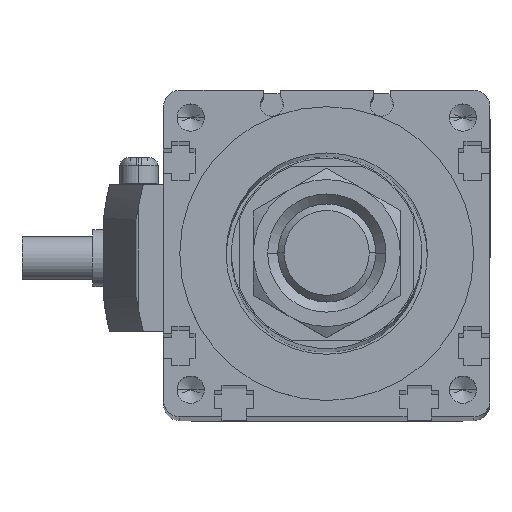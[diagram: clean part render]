
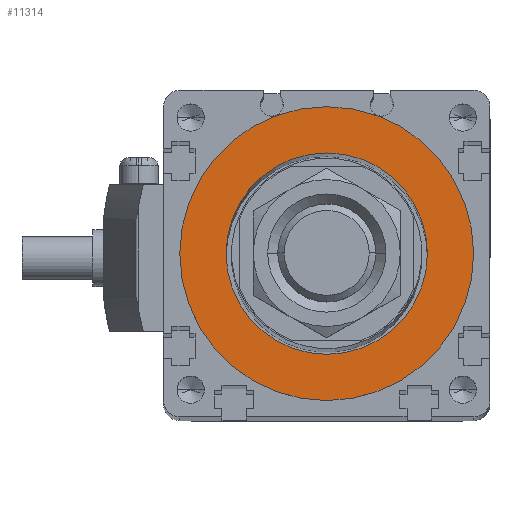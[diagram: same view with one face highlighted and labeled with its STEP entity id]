
A CAD part, top view. The second image highlights one B-rep face of the part: STEP entity #11314.
In plain terms, the highlighted planar face has unit normal (0, 0, 1).
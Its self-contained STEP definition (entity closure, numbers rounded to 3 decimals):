
#116 = DIRECTION ( 'NONE',  ( 1., 0., 0. ) ) ;
#117 = DIRECTION ( 'NONE',  ( 0., 0., 1. ) ) ;
#118 = CARTESIAN_POINT ( 'NONE',  ( -30., 30., 391.1 ) ) ;
#119 = AXIS2_PLACEMENT_3D ( 'NONE', #118, #117, #116 ) ;
#126 = FACE_BOUND ( 'NONE', #10800, .T. ) ;
#131 = PLANE ( 'NONE',  #119 ) ;
#136 = FACE_OUTER_BOUND ( 'NONE', #10810, .T. ) ;
#152 = CIRCLE ( 'NONE', #17199, 27. ) ;
#3004 = AXIS2_PLACEMENT_3D ( 'NONE', #3493, #3748, #3865 ) ;
#3493 = CARTESIAN_POINT ( 'NONE',  ( 0., 0., 391.1 ) ) ;
#3748 = DIRECTION ( 'NONE',  ( 0., 0., -1. ) ) ;
#3865 = DIRECTION ( 'NONE',  ( 1., 0., 0. ) ) ;
#4191 = CIRCLE ( 'NONE', #3004, 18.5 ) ;
#4589 = CARTESIAN_POINT ( 'NONE',  ( 27., 0., 391.1 ) ) ;
#4654 = CARTESIAN_POINT ( 'NONE',  ( -27., 0., 391.1 ) ) ;
#10059 = VERTEX_POINT ( 'NONE', #4654 ) ;
#10068 = VERTEX_POINT ( 'NONE', #4589 ) ;
#10252 = EDGE_CURVE ( 'NONE', #11006, #10269, #4191, .T. ) ;
#10269 = VERTEX_POINT ( 'NONE', #16546 ) ;
#10402 = EDGE_CURVE ( 'NONE', #10068, #10059, #16508, .T. ) ;
#10641 = EDGE_CURVE ( 'NONE', #10269, #11006, #16805, .T. ) ;
#10686 = ORIENTED_EDGE ( 'NONE', *, *, #10641, .T. ) ;
#10796 = ORIENTED_EDGE ( 'NONE', *, *, #11316, .T. ) ;
#10800 = EDGE_LOOP ( 'NONE', ( #10686, #10802 ) ) ;
#10802 = ORIENTED_EDGE ( 'NONE', *, *, #10252, .T. ) ;
#10810 = EDGE_LOOP ( 'NONE', ( #10812, #10796 ) ) ;
#10812 = ORIENTED_EDGE ( 'NONE', *, *, #10402, .T. ) ;
#11006 = VERTEX_POINT ( 'NONE', #17210 ) ;
#11314 = ADVANCED_FACE ( 'NONE', ( #126, #136 ), #131, .T. ) ;
#11316 = EDGE_CURVE ( 'NONE', #10059, #10068, #152, .T. ) ;
#16493 = CARTESIAN_POINT ( 'NONE',  ( 0., 0., 391.1 ) ) ;
#16505 = DIRECTION ( 'NONE',  ( 1., 0., 0. ) ) ;
#16506 = DIRECTION ( 'NONE',  ( 0., 0., 1. ) ) ;
#16507 = AXIS2_PLACEMENT_3D ( 'NONE', #16493, #16506, #16505 ) ;
#16508 = CIRCLE ( 'NONE', #16507, 27. ) ;
#16546 = CARTESIAN_POINT ( 'NONE',  ( -18.5, 0., 391.1 ) ) ;
#16802 = CARTESIAN_POINT ( 'NONE',  ( 0., 0., 391.1 ) ) ;
#16805 = CIRCLE ( 'NONE', #16956, 18.5 ) ;
#16951 = DIRECTION ( 'NONE',  ( 1., 0., 0. ) ) ;
#16956 = AXIS2_PLACEMENT_3D ( 'NONE', #16802, #16962, #16951 ) ;
#16962 = DIRECTION ( 'NONE',  ( 0., 0., -1. ) ) ;
#17195 = DIRECTION ( 'NONE',  ( 0., 0., 1. ) ) ;
#17196 = CARTESIAN_POINT ( 'NONE',  ( 0., 0., 391.1 ) ) ;
#17199 = AXIS2_PLACEMENT_3D ( 'NONE', #17196, #17195, #17251 ) ;
#17210 = CARTESIAN_POINT ( 'NONE',  ( 18.5, 0., 391.1 ) ) ;
#17251 = DIRECTION ( 'NONE',  ( 1., 0., 0. ) ) ;
